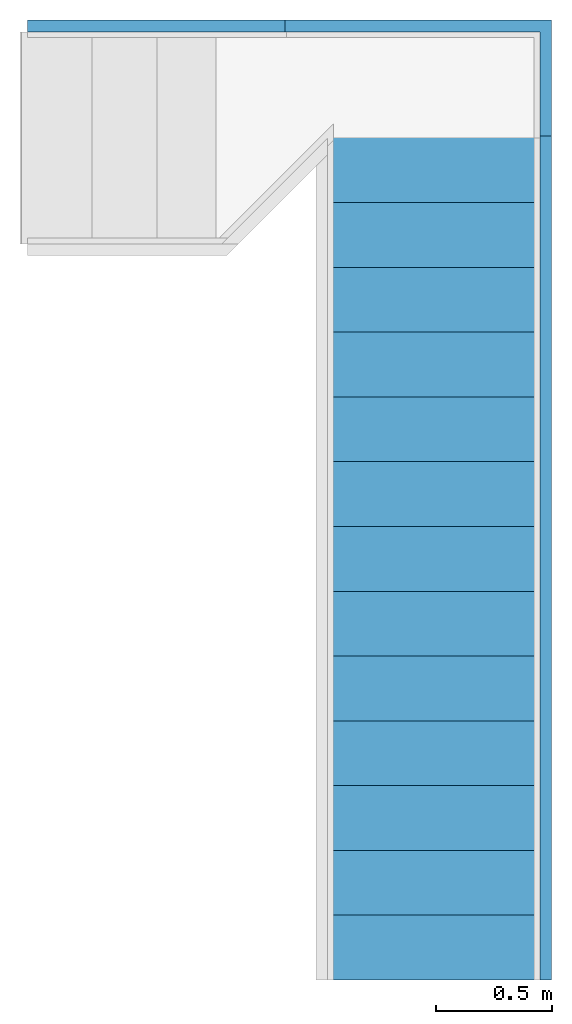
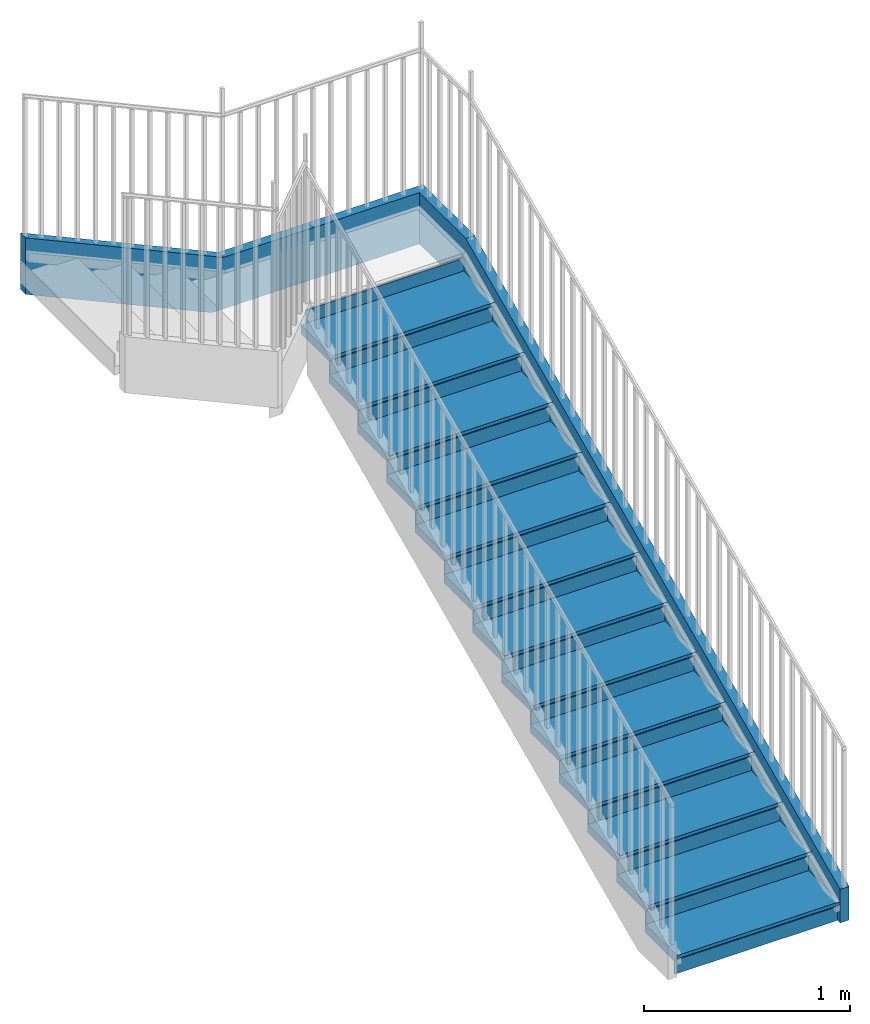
# One storey, part 2 of 2: 1 member, 1 stair flight, 1 element without a shape of its own.
"""IFC2X3 building model written with IfcOpenShell, lengths in feet."""

from ifc_helpers import new_model, entity, si_unit, converted_unit, derived_unit, direction, frame, origin, place, context, subcontext, project, spatial, faceted_brep, material, element, aggregate, save


model = new_model("IFC2X3")

# Units and contexts
model_context = context("Model", 3, precision=0.0001, world=origin(), true_north=direction((6.12303176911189e-17, 1.0)))
body_context = subcontext(model_context, "Body", "Model", "MODEL_VIEW")
ifc_project = project(units=[converted_unit("LENGTHUNIT", "FOOT", entity("IfcRatioMeasure", 0.3048), si_unit("LENGTHUNIT", "METRE"), dimensions=[1, 0, 0, 0, 0, 0, 0]), converted_unit("AREAUNIT", "SQUARE FOOT", entity("IfcRatioMeasure", 0.09290304), si_unit("AREAUNIT", "SQUARE_METRE"), dimensions=[2, 0, 0, 0, 0, 0, 0]), converted_unit("VOLUMEUNIT", "CUBIC FOOT", entity("IfcRatioMeasure", 0.028316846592), si_unit("VOLUMEUNIT", "CUBIC_METRE"), dimensions=[3, 0, 0, 0, 0, 0, 0]), converted_unit("PLANEANGLEUNIT", "DEGREE", entity("IfcRatioMeasure", 0.0174532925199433), si_unit("PLANEANGLEUNIT", "RADIAN"), dimensions=[0, 0, 0, 0, 0, 0, 0]), si_unit("MASSUNIT", "GRAM", prefix="KILO"), derived_unit("MASSDENSITYUNIT", [(si_unit("MASSUNIT", "GRAM", prefix="KILO"), 1), (si_unit("LENGTHUNIT", "METRE"), -3)]), si_unit("TIMEUNIT", "SECOND"), si_unit("FREQUENCYUNIT", "HERTZ"), si_unit("THERMODYNAMICTEMPERATUREUNIT", "DEGREE_CELSIUS"), derived_unit("THERMALTRANSMITTANCEUNIT", [(si_unit("MASSUNIT", "GRAM", prefix="KILO"), 1), (si_unit("THERMODYNAMICTEMPERATUREUNIT", "KELVIN"), -1), (si_unit("TIMEUNIT", "SECOND"), -3)]), derived_unit("VOLUMETRICFLOWRATEUNIT", [(si_unit("LENGTHUNIT", "METRE"), 3), (si_unit("TIMEUNIT", "SECOND"), -1)]), si_unit("ELECTRICCURRENTUNIT", "AMPERE"), si_unit("ELECTRICVOLTAGEUNIT", "VOLT"), si_unit("POWERUNIT", "WATT"), si_unit("FORCEUNIT", "NEWTON"), si_unit("ILLUMINANCEUNIT", "LUX"), si_unit("LUMINOUSFLUXUNIT", "LUMEN"), si_unit("LUMINOUSINTENSITYUNIT", "CANDELA"), derived_unit("USERDEFINED", [(si_unit("MASSUNIT", "GRAM", prefix="KILO"), -1), (si_unit("LENGTHUNIT", "METRE"), -2), (si_unit("TIMEUNIT", "SECOND"), 3), (si_unit("LUMINOUSFLUXUNIT", "LUMEN"), 1)]), derived_unit("LINEARVELOCITYUNIT", [(si_unit("LENGTHUNIT", "METRE"), 1), (si_unit("TIMEUNIT", "SECOND"), -1)]), si_unit("PRESSUREUNIT", "PASCAL"), derived_unit("USERDEFINED", [(si_unit("LENGTHUNIT", "METRE"), -2), (si_unit("MASSUNIT", "GRAM", prefix="KILO"), 1), (si_unit("TIMEUNIT", "SECOND"), -2)])], contexts=[model_context])

# Site, building, storey
site_placement = place(None, origin())
site = spatial("IfcSite", under=ifc_project, at=site_placement, Name="表面", CompositionType="ELEMENT")
building_placement = place(site_placement, origin())
building = spatial("IfcBuilding", under=site, at=building_placement, CompositionType="ELEMENT")
storey_placement = place(building_placement, frame((0.0, 0.0, -10.0)))
storey = spatial("IfcBuildingStorey", under=building, at=storey_placement, Name="HULL", CompositionType="ELEMENT", Elevation=-10.0)

# Stair, member, stair flight
stair_placement = place(storey_placement, origin())
stair = element("IfcStair", 1, at=stair_placement, inside=storey, Name="楼梯:7\" max riser 11\" tread", ObjectType="楼梯:7\" max riser 11\" tread", ShapeType="NOTDEFINED")
ifc_material = material(Name="Metal - Aluminum")
member_placement = place(stair_placement, origin())
member = element("IfcMember", 2, at=member_placement, material=ifc_material, Name="楼梯:7\" max riser 11\" tread:1", ObjectType="楼梯:7\" max riser 11\" tread", context=body_context, shape_type="Brep", body=[
    faceted_brep([(15.4650869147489, 11.0381172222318, 8.58333333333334), (15.6317535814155, 11.2047838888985, 8.58333333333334), (11.8574025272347, 11.2047838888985, 8.58333333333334), (11.8574025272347, 11.0381172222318, 8.58333333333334), (15.4650869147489, 11.0381172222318, 7.58333333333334), (11.6407933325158, 11.0381172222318, 7.58333333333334), (15.6317535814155, 11.2047838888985, 7.58333333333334), (11.6407933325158, 11.2047838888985, 7.58333333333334), (15.4650869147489, 9.56246827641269, 8.58333333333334), (15.6317535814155, 9.56246827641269, 8.58333333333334), (15.4650869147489, 9.77907747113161, 7.58333333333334), (15.6317535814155, 9.77907747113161, 7.58333333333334), (15.6317535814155, -2.37854944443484, 3.15559800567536), (15.4650869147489, -2.37854944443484, 3.15559800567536), (15.4650869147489, -2.37854944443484, 2.5), (15.6317535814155, -2.37854944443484, 2.5), (15.4650869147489, -1.40425586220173, 2.5), (15.6317535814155, -1.40425586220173, 2.5), (8.21508691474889, 11.2047838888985, 10.2389313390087), (8.21508691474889, 11.2047838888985, 9.14047261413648), (8.21508691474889, 11.0381172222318, 9.14047261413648), (8.21508691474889, 11.0381172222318, 10.2389313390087)], [[[0, 1, 2, 3]], [[4, 0, 3, 5]], [[6, 4, 5, 7]], [[1, 6, 7, 2]], [[8, 9, 1, 0]], [[10, 8, 0, 4]], [[11, 10, 4, 6]], [[9, 11, 6, 1]], [[12, 13, 14, 15]], [[13, 12, 9, 8]], [[14, 13, 8, 10, 16]], [[16, 10, 11, 17]], [[12, 15, 17, 11, 9]], [[18, 19, 20, 21]], [[3, 2, 18, 21]], [[5, 3, 21, 20]], [[7, 5, 20, 19]], [[2, 7, 19, 18]], [[15, 14, 16, 17]]]),
])
stair_flight_placement = place(stair_placement, origin())
stair_flight = element("IfcStairFlight", 3, at=stair_flight_placement, material=ifc_material, Name="楼梯:7\" max riser 11\" tread:1", ObjectType="楼梯:7\" max riser 11\" tread", NumberOfRiser=14, NumberOfTreads=13, RiserHeight=0.416666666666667, TreadLength=0.916666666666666, context=body_context, shape_type="Brep", body=[
    faceted_brep([(12.4650869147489, -2.37854944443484, 2.91666666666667), (15.4650869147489, -2.37854944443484, 2.91666666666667), (15.4650869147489, -1.37854944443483, 2.91666666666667), (12.4650869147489, -1.37854944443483, 2.91666666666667), (12.4650869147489, -2.29521611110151, 2.75), (12.4650869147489, -1.37854944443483, 2.75), (15.4650869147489, -1.37854944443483, 2.75), (15.4650869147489, -2.29521611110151, 2.75), (15.4650869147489, -2.37854944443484, 2.85416666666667), (12.4650869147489, -2.37854944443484, 2.85416666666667), (15.4650869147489, -2.29521611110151, 2.77083333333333), (12.4650869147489, -2.29521611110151, 2.77083333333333)], [[[0, 1, 2, 3]], [[4, 5, 6, 7]], [[8, 1, 0, 9]], [[10, 8, 9, 11]], [[0, 3, 5, 4, 11, 9]], [[4, 7, 10, 11]], [[2, 1, 8, 10, 7, 6]], [[3, 2, 6, 5]]]),
    faceted_brep([(12.4650869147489, -1.46188277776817, 3.33333333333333), (15.4650869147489, -1.46188277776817, 3.33333333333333), (15.4650869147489, -0.461882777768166, 3.33333333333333), (12.4650869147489, -0.461882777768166, 3.33333333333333), (12.4650869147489, -1.37854944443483, 3.16666666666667), (12.4650869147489, -0.461882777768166, 3.16666666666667), (15.4650869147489, -0.461882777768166, 3.16666666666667), (15.4650869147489, -1.37854944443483, 3.16666666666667), (12.4650869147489, -1.37854944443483, 3.1875), (12.4650869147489, -1.46188277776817, 3.27083333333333), (15.4650869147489, -1.37854944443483, 3.1875), (15.4650869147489, -1.46188277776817, 3.27083333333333)], [[[0, 1, 2, 3]], [[4, 5, 6, 7]], [[0, 3, 5, 4, 8, 9]], [[4, 7, 10, 8]], [[2, 1, 11, 10, 7, 6]], [[3, 2, 6, 5]], [[11, 1, 0, 9]], [[10, 11, 9, 8]]]),
    faceted_brep([(15.4650869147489, -2.29521611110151, 2.75), (15.4650869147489, -2.29521611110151, 2.5), (15.4650869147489, -2.27438277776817, 2.5), (15.4650869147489, -2.27438277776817, 2.75), (12.4650869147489, -2.29521611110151, 2.75), (12.4650869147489, -2.27438277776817, 2.75), (12.4650869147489, -2.27438277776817, 2.5), (12.4650869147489, -2.29521611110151, 2.5)], [[[0, 1, 2, 3]], [[4, 5, 6, 7]], [[1, 0, 4, 7]], [[2, 1, 7, 6]], [[3, 2, 6, 5]], [[0, 3, 5, 4]]]),
    faceted_brep([(15.4650869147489, -1.37854944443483, 3.16666666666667), (15.4650869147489, -1.37854944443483, 2.75), (15.4650869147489, -1.3577161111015, 2.75), (15.4650869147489, -1.3577161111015, 3.16666666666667), (12.4650869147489, -1.37854944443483, 3.16666666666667), (12.4650869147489, -1.3577161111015, 3.16666666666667), (12.4650869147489, -1.3577161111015, 2.75), (12.4650869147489, -1.37854944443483, 2.75)], [[[0, 1, 2, 3]], [[4, 5, 6, 7]], [[1, 0, 4, 7]], [[2, 1, 7, 6]], [[3, 2, 6, 5]], [[0, 3, 5, 4]]]),
    faceted_brep([(15.4650869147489, -0.461882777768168, 3.58333333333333), (15.4650869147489, -0.461882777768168, 3.16666666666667), (15.4650869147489, -0.441049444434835, 3.16666666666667), (15.4650869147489, -0.441049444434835, 3.58333333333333), (12.4650869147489, -0.461882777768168, 3.58333333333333), (12.4650869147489, -0.441049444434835, 3.58333333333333), (12.4650869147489, -0.441049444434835, 3.16666666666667), (12.4650869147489, -0.461882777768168, 3.16666666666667)], [[[0, 1, 2, 3]], [[4, 5, 6, 7]], [[1, 0, 4, 7]], [[2, 1, 7, 6]], [[3, 2, 6, 5]], [[0, 3, 5, 4]]]),
    faceted_brep([(12.4650869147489, -0.545216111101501, 3.75), (15.4650869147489, -0.545216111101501, 3.75), (15.4650869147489, 0.4547838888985, 3.75), (12.4650869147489, 0.4547838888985, 3.75), (12.4650869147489, -0.461882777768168, 3.58333333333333), (12.4650869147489, 0.4547838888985, 3.58333333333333), (15.4650869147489, 0.4547838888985, 3.58333333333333), (15.4650869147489, -0.461882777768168, 3.58333333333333), (12.4650869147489, -0.461882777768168, 3.60416666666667), (12.4650869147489, -0.545216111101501, 3.6875), (15.4650869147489, -0.461882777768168, 3.60416666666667), (15.4650869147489, -0.545216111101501, 3.6875)], [[[0, 1, 2, 3]], [[4, 5, 6, 7]], [[0, 3, 5, 4, 8, 9]], [[4, 7, 10, 8]], [[2, 1, 11, 10, 7, 6]], [[3, 2, 6, 5]], [[11, 1, 0, 9]], [[10, 11, 9, 8]]]),
    faceted_brep([(15.4650869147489, 0.454783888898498, 4.0), (15.4650869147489, 0.454783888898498, 3.58333333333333), (15.4650869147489, 0.475617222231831, 3.58333333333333), (15.4650869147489, 0.475617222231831, 4.0), (12.4650869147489, 0.454783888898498, 4.0), (12.4650869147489, 0.475617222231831, 4.0), (12.4650869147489, 0.475617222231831, 3.58333333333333), (12.4650869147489, 0.454783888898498, 3.58333333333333)], [[[0, 1, 2, 3]], [[4, 5, 6, 7]], [[1, 0, 4, 7]], [[2, 1, 7, 6]], [[3, 2, 6, 5]], [[0, 3, 5, 4]]]),
    faceted_brep([(12.4650869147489, 0.371450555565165, 4.16666666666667), (15.4650869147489, 0.371450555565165, 4.16666666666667), (15.4650869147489, 1.37145055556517, 4.16666666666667), (12.4650869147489, 1.37145055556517, 4.16666666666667), (12.4650869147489, 0.454783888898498, 4.0), (12.4650869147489, 1.37145055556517, 4.0), (15.4650869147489, 1.37145055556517, 4.0), (15.4650869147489, 0.454783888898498, 4.0), (12.4650869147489, 0.454783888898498, 4.02083333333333), (12.4650869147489, 0.371450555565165, 4.10416666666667), (15.4650869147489, 0.454783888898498, 4.02083333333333), (15.4650869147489, 0.371450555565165, 4.10416666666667)], [[[0, 1, 2, 3]], [[4, 5, 6, 7]], [[0, 3, 5, 4, 8, 9]], [[4, 7, 10, 8]], [[2, 1, 11, 10, 7, 6]], [[3, 2, 6, 5]], [[11, 1, 0, 9]], [[10, 11, 9, 8]]]),
    faceted_brep([(15.4650869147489, 1.37145055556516, 4.41666666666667), (15.4650869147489, 1.37145055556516, 4.0), (15.4650869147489, 1.3922838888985, 4.0), (15.4650869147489, 1.3922838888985, 4.41666666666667), (12.4650869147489, 1.37145055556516, 4.41666666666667), (12.4650869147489, 1.3922838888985, 4.41666666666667), (12.4650869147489, 1.3922838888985, 4.0), (12.4650869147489, 1.37145055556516, 4.0)], [[[0, 1, 2, 3]], [[4, 5, 6, 7]], [[1, 0, 4, 7]], [[2, 1, 7, 6]], [[3, 2, 6, 5]], [[0, 3, 5, 4]]]),
    faceted_brep([(12.4650869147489, 1.28811722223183, 4.58333333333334), (15.4650869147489, 1.28811722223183, 4.58333333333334), (15.4650869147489, 2.28811722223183, 4.58333333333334), (12.4650869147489, 2.28811722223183, 4.58333333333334), (12.4650869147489, 1.37145055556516, 4.41666666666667), (12.4650869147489, 2.28811722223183, 4.41666666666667), (15.4650869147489, 2.28811722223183, 4.41666666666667), (15.4650869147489, 1.37145055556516, 4.41666666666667), (12.4650869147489, 1.37145055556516, 4.4375), (12.4650869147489, 1.28811722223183, 4.52083333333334), (15.4650869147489, 1.37145055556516, 4.4375), (15.4650869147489, 1.28811722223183, 4.52083333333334)], [[[0, 1, 2, 3]], [[4, 5, 6, 7]], [[0, 3, 5, 4, 8, 9]], [[4, 7, 10, 8]], [[2, 1, 11, 10, 7, 6]], [[3, 2, 6, 5]], [[11, 1, 0, 9]], [[10, 11, 9, 8]]]),
    faceted_brep([(15.4650869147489, 2.28811722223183, 4.83333333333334), (15.4650869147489, 2.28811722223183, 4.41666666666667), (15.4650869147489, 2.30895055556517, 4.41666666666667), (15.4650869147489, 2.30895055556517, 4.83333333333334), (12.4650869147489, 2.28811722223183, 4.83333333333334), (12.4650869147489, 2.30895055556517, 4.83333333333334), (12.4650869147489, 2.30895055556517, 4.41666666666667), (12.4650869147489, 2.28811722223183, 4.41666666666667)], [[[0, 1, 2, 3]], [[4, 5, 6, 7]], [[1, 0, 4, 7]], [[2, 1, 7, 6]], [[3, 2, 6, 5]], [[0, 3, 5, 4]]]),
    faceted_brep([(12.4650869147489, 2.2047838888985, 5.0), (15.4650869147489, 2.2047838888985, 5.0), (15.4650869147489, 3.2047838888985, 5.0), (12.4650869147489, 3.2047838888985, 5.0), (12.4650869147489, 2.28811722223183, 4.83333333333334), (12.4650869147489, 3.2047838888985, 4.83333333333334), (15.4650869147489, 3.2047838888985, 4.83333333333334), (15.4650869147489, 2.28811722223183, 4.83333333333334), (12.4650869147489, 2.28811722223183, 4.85416666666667), (12.4650869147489, 2.2047838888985, 4.9375), (15.4650869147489, 2.28811722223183, 4.85416666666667), (15.4650869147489, 2.2047838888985, 4.9375)], [[[0, 1, 2, 3]], [[4, 5, 6, 7]], [[0, 3, 5, 4, 8, 9]], [[4, 7, 10, 8]], [[2, 1, 11, 10, 7, 6]], [[3, 2, 6, 5]], [[11, 1, 0, 9]], [[10, 11, 9, 8]]]),
    faceted_brep([(15.4650869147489, 3.2047838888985, 5.25), (15.4650869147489, 3.2047838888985, 4.83333333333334), (15.4650869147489, 3.22561722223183, 4.83333333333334), (15.4650869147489, 3.22561722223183, 5.25), (12.4650869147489, 3.2047838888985, 5.25), (12.4650869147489, 3.22561722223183, 5.25), (12.4650869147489, 3.22561722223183, 4.83333333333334), (12.4650869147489, 3.2047838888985, 4.83333333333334)], [[[0, 1, 2, 3]], [[4, 5, 6, 7]], [[1, 0, 4, 7]], [[2, 1, 7, 6]], [[3, 2, 6, 5]], [[0, 3, 5, 4]]]),
    faceted_brep([(12.4650869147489, 3.12145055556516, 5.41666666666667), (15.4650869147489, 3.12145055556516, 5.41666666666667), (15.4650869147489, 4.12145055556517, 5.41666666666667), (12.4650869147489, 4.12145055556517, 5.41666666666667), (12.4650869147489, 3.2047838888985, 5.25), (12.4650869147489, 4.12145055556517, 5.25), (15.4650869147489, 4.12145055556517, 5.25), (15.4650869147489, 3.2047838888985, 5.25), (12.4650869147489, 3.2047838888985, 5.27083333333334), (12.4650869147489, 3.12145055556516, 5.35416666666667), (15.4650869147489, 3.2047838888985, 5.27083333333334), (15.4650869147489, 3.12145055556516, 5.35416666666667)], [[[0, 1, 2, 3]], [[4, 5, 6, 7]], [[0, 3, 5, 4, 8, 9]], [[4, 7, 10, 8]], [[2, 1, 11, 10, 7, 6]], [[3, 2, 6, 5]], [[11, 1, 0, 9]], [[10, 11, 9, 8]]]),
    faceted_brep([(15.4650869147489, 4.12145055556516, 5.66666666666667), (15.4650869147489, 4.12145055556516, 5.25), (15.4650869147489, 4.1422838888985, 5.25), (15.4650869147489, 4.1422838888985, 5.66666666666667), (12.4650869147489, 4.12145055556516, 5.66666666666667), (12.4650869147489, 4.1422838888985, 5.66666666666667), (12.4650869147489, 4.1422838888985, 5.25), (12.4650869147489, 4.12145055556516, 5.25)], [[[0, 1, 2, 3]], [[4, 5, 6, 7]], [[1, 0, 4, 7]], [[2, 1, 7, 6]], [[3, 2, 6, 5]], [[0, 3, 5, 4]]]),
    faceted_brep([(12.4650869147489, 4.03811722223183, 5.83333333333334), (15.4650869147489, 4.03811722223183, 5.83333333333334), (15.4650869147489, 5.03811722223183, 5.83333333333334), (12.4650869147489, 5.03811722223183, 5.83333333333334), (12.4650869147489, 4.12145055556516, 5.66666666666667), (12.4650869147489, 5.03811722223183, 5.66666666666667), (15.4650869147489, 5.03811722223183, 5.66666666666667), (15.4650869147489, 4.12145055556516, 5.66666666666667), (12.4650869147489, 4.12145055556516, 5.6875), (12.4650869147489, 4.03811722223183, 5.77083333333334), (15.4650869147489, 4.12145055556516, 5.6875), (15.4650869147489, 4.03811722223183, 5.77083333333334)], [[[0, 1, 2, 3]], [[4, 5, 6, 7]], [[0, 3, 5, 4, 8, 9]], [[4, 7, 10, 8]], [[2, 1, 11, 10, 7, 6]], [[3, 2, 6, 5]], [[11, 1, 0, 9]], [[10, 11, 9, 8]]]),
    faceted_brep([(15.4650869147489, 5.03811722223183, 6.08333333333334), (15.4650869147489, 5.03811722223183, 5.66666666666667), (15.4650869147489, 5.05895055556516, 5.66666666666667), (15.4650869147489, 5.05895055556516, 6.08333333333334), (12.4650869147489, 5.03811722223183, 6.08333333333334), (12.4650869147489, 5.05895055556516, 6.08333333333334), (12.4650869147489, 5.05895055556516, 5.66666666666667), (12.4650869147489, 5.03811722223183, 5.66666666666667)], [[[0, 1, 2, 3]], [[4, 5, 6, 7]], [[1, 0, 4, 7]], [[2, 1, 7, 6]], [[3, 2, 6, 5]], [[0, 3, 5, 4]]]),
    faceted_brep([(12.4650869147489, 4.9547838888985, 6.25), (15.4650869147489, 4.9547838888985, 6.25), (15.4650869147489, 5.9547838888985, 6.25), (12.4650869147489, 5.9547838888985, 6.25), (12.4650869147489, 5.03811722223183, 6.08333333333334), (12.4650869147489, 5.9547838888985, 6.08333333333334), (15.4650869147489, 5.9547838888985, 6.08333333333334), (15.4650869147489, 5.03811722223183, 6.08333333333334), (12.4650869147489, 5.03811722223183, 6.10416666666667), (12.4650869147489, 4.9547838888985, 6.1875), (15.4650869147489, 5.03811722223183, 6.10416666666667), (15.4650869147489, 4.9547838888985, 6.1875)], [[[0, 1, 2, 3]], [[4, 5, 6, 7]], [[0, 3, 5, 4, 8, 9]], [[4, 7, 10, 8]], [[2, 1, 11, 10, 7, 6]], [[3, 2, 6, 5]], [[11, 1, 0, 9]], [[10, 11, 9, 8]]]),
    faceted_brep([(15.4650869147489, 5.9547838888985, 6.5), (15.4650869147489, 5.9547838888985, 6.08333333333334), (15.4650869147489, 5.97561722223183, 6.08333333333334), (15.4650869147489, 5.97561722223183, 6.5), (12.4650869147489, 5.9547838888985, 6.5), (12.4650869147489, 5.97561722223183, 6.5), (12.4650869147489, 5.97561722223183, 6.08333333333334), (12.4650869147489, 5.9547838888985, 6.08333333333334)], [[[0, 1, 2, 3]], [[4, 5, 6, 7]], [[1, 0, 4, 7]], [[2, 1, 7, 6]], [[3, 2, 6, 5]], [[0, 3, 5, 4]]]),
    faceted_brep([(12.4650869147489, 5.87145055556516, 6.66666666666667), (15.4650869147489, 5.87145055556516, 6.66666666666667), (15.4650869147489, 6.87145055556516, 6.66666666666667), (12.4650869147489, 6.87145055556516, 6.66666666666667), (12.4650869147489, 5.9547838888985, 6.5), (12.4650869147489, 6.87145055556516, 6.5), (15.4650869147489, 6.87145055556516, 6.5), (15.4650869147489, 5.9547838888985, 6.5), (12.4650869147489, 5.9547838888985, 6.52083333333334), (12.4650869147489, 5.87145055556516, 6.60416666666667), (15.4650869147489, 5.9547838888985, 6.52083333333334), (15.4650869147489, 5.87145055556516, 6.60416666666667)], [[[0, 1, 2, 3]], [[4, 5, 6, 7]], [[0, 3, 5, 4, 8, 9]], [[4, 7, 10, 8]], [[2, 1, 11, 10, 7, 6]], [[3, 2, 6, 5]], [[11, 1, 0, 9]], [[10, 11, 9, 8]]]),
    faceted_brep([(15.4650869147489, 6.87145055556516, 6.91666666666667), (15.4650869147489, 6.87145055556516, 6.5), (15.4650869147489, 6.89228388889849, 6.5), (15.4650869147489, 6.89228388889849, 6.91666666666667), (12.4650869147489, 6.87145055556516, 6.91666666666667), (12.4650869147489, 6.89228388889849, 6.91666666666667), (12.4650869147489, 6.89228388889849, 6.5), (12.4650869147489, 6.87145055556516, 6.5)], [[[0, 1, 2, 3]], [[4, 5, 6, 7]], [[1, 0, 4, 7]], [[2, 1, 7, 6]], [[3, 2, 6, 5]], [[0, 3, 5, 4]]]),
    faceted_brep([(12.4650869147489, 6.78811722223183, 7.08333333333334), (15.4650869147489, 6.78811722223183, 7.08333333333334), (15.4650869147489, 7.78811722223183, 7.08333333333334), (12.4650869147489, 7.78811722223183, 7.08333333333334), (12.4650869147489, 6.87145055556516, 6.91666666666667), (12.4650869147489, 7.78811722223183, 6.91666666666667), (15.4650869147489, 7.78811722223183, 6.91666666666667), (15.4650869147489, 6.87145055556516, 6.91666666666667), (12.4650869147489, 6.87145055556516, 6.9375), (12.4650869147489, 6.78811722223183, 7.02083333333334), (15.4650869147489, 6.87145055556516, 6.9375), (15.4650869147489, 6.78811722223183, 7.02083333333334)], [[[0, 1, 2, 3]], [[4, 5, 6, 7]], [[0, 3, 5, 4, 8, 9]], [[4, 7, 10, 8]], [[2, 1, 11, 10, 7, 6]], [[3, 2, 6, 5]], [[11, 1, 0, 9]], [[10, 11, 9, 8]]]),
    faceted_brep([(15.4650869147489, 7.78811722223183, 7.33333333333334), (15.4650869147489, 7.78811722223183, 6.91666666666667), (15.4650869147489, 7.80895055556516, 6.91666666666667), (15.4650869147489, 7.80895055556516, 7.33333333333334), (12.4650869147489, 7.78811722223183, 7.33333333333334), (12.4650869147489, 7.80895055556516, 7.33333333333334), (12.4650869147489, 7.80895055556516, 6.91666666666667), (12.4650869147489, 7.78811722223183, 6.91666666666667)], [[[0, 1, 2, 3]], [[4, 5, 6, 7]], [[1, 0, 4, 7]], [[2, 1, 7, 6]], [[3, 2, 6, 5]], [[0, 3, 5, 4]]]),
    faceted_brep([(12.4650869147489, 7.7047838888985, 7.50000000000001), (15.4650869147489, 7.7047838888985, 7.50000000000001), (15.4650869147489, 8.7047838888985, 7.50000000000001), (12.4650869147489, 8.7047838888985, 7.50000000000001), (12.4650869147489, 7.78811722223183, 7.33333333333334), (12.4650869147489, 8.7047838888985, 7.33333333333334), (15.4650869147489, 8.7047838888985, 7.33333333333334), (15.4650869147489, 7.78811722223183, 7.33333333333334), (12.4650869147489, 7.78811722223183, 7.35416666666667), (12.4650869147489, 7.7047838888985, 7.43750000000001), (15.4650869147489, 7.78811722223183, 7.35416666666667), (15.4650869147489, 7.7047838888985, 7.43750000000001)], [[[0, 1, 2, 3]], [[4, 5, 6, 7]], [[0, 3, 5, 4, 8, 9]], [[4, 7, 10, 8]], [[2, 1, 11, 10, 7, 6]], [[3, 2, 6, 5]], [[11, 1, 0, 9]], [[10, 11, 9, 8]]]),
    faceted_brep([(15.4650869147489, 8.7047838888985, 7.75000000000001), (15.4650869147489, 8.7047838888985, 7.33333333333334), (15.4650869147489, 8.72561722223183, 7.33333333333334), (15.4650869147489, 8.72561722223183, 7.75000000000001), (12.4650869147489, 8.7047838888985, 7.75000000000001), (12.4650869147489, 8.72561722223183, 7.75000000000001), (12.4650869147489, 8.72561722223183, 7.33333333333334), (12.4650869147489, 8.7047838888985, 7.33333333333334)], [[[0, 1, 2, 3]], [[4, 5, 6, 7]], [[1, 0, 4, 7]], [[2, 1, 7, 6]], [[3, 2, 6, 5]], [[0, 3, 5, 4]]]),
    faceted_brep([(12.4650869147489, 8.62145055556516, 7.91666666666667), (15.4650869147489, 8.62145055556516, 7.91666666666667), (15.4650869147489, 9.53811722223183, 7.91666666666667), (15.4650869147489, 9.62145055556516, 7.91666666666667), (12.4650869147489, 9.62145055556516, 7.91666666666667), (12.4650869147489, 8.7047838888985, 7.75000000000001), (12.4650869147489, 9.62145055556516, 7.75000000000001), (15.4650869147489, 9.62145055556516, 7.75000000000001), (15.4650869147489, 9.53811722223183, 7.75000000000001), (15.4650869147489, 8.7047838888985, 7.75000000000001), (12.4650869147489, 8.7047838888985, 7.77083333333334), (12.4650869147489, 8.62145055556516, 7.85416666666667), (15.4650869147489, 8.7047838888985, 7.77083333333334), (15.4650869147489, 8.62145055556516, 7.85416666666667)], [[[0, 1, 2, 3, 4]], [[5, 6, 7, 8, 9]], [[0, 4, 6, 5, 10, 11]], [[5, 9, 12, 10]], [[2, 1, 13, 12, 9, 8]], [[3, 2, 8, 7]], [[4, 3, 7, 6]], [[13, 1, 0, 11]], [[12, 13, 11, 10]]]),
    faceted_brep([(15.4650869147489, 9.62145055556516, 8.16666666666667), (15.4650869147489, 9.62145055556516, 7.75000000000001), (15.4650869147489, 9.6422838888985, 7.75000000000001), (15.4650869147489, 9.6422838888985, 8.16666666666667), (12.5484202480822, 9.62145055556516, 8.16666666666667), (12.5692535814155, 9.6422838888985, 8.16666666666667), (12.5692535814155, 9.6422838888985, 7.75000000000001), (12.5484202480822, 9.62145055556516, 7.75000000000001)], [[[0, 1, 2, 3]], [[4, 5, 6, 7]], [[1, 0, 4, 7]], [[2, 1, 7, 6]], [[3, 2, 6, 5]], [[0, 3, 5, 4]]]),
])
aggregate(stair, [stair_flight, member])

save(model, "model.ifc")
